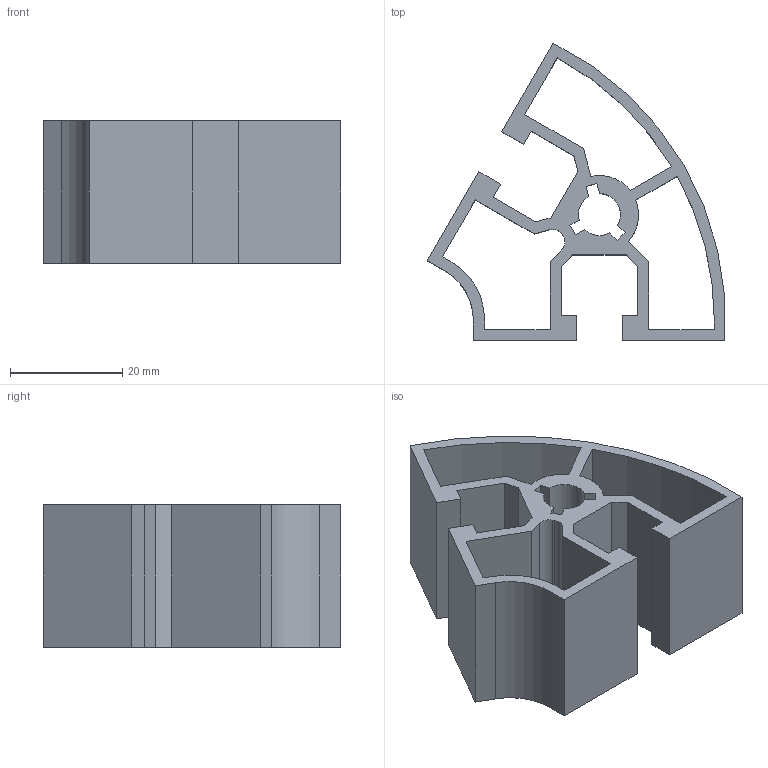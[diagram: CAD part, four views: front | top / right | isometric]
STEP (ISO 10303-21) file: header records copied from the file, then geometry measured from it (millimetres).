
FILE_DESCRIPTION((''),'2;1');
FILE_NAME('C:\Documents and Settings\Administrator\My Documents\Andys Backup Data\STEP LIBRARIES\MINITEC STEP LIBRARIES\ALUMINUM PROFILES\20.1096 45 R 60.stp','2009-01-14T16:08:42',('Administrator'),(''),'Autodesk Inventor 2009','Autodesk Inventor 2009','');
FILE_SCHEMA(('AUTOMOTIVE_DESIGN { 1 0 10303 214 1 1 1 1 }'));
Length unit declared in the file: inch
Products named in the file (1): 20.1096 45 R 60
Bounding box: 53.11 x 53.13 x 25.4 mm (x, y, z)
Volume: 14859.4 mm3; surface area: 14085 mm2
Topology: 1 solids, 1 shells, 65 faces, 189 edges, 126 vertices
Faces by surface type: plane 53, cylinder 12
Entity records: 2171 total; most frequent: CARTESIAN_POINT 381, ORIENTED_EDGE 378, DIRECTION 345, EDGE_CURVE 189, VECTOR 165, LINE 165, VERTEX_POINT 126, AXIS2_PLACEMENT_3D 90
